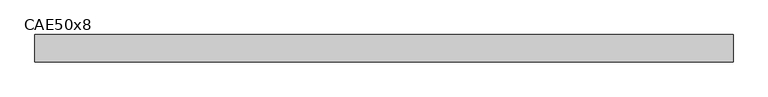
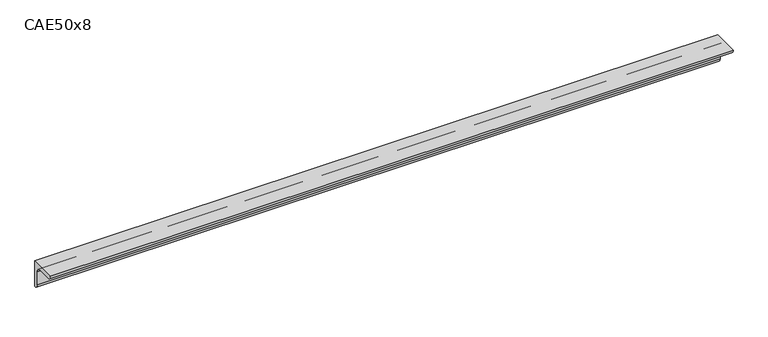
"""IFC4 building model written with IfcOpenShell, lengths in millimetres: beam geometry, L-Cornières : CAE50x8."""

from ifc_helpers import new_model, si_unit, point, frame, frame_2d, origin, place, context, project, spatial, polyline, circle_curve, trimmed, segment, composite_curve, outline, extrude, source, transform, mapped, element, save


def cae50x8_bf8927d7(model_context):
    return source(origin(), model_context, "Body", "SweptSolid", [
        extrude(outline(composite_curve([segment(polyline([(15.2, 15.2), (15.2, -34.8)]), True, "CONTINUOUS"), segment(trimmed(circle_curve(frame_2d((15.2, -26.8)), 8.0), [point((15.2, -34.8))], [point((7.2, -26.8))], False, "CARTESIAN"), True, "CONTINUOUS"), segment(polyline([(7.2, -26.8), (7.2, -0.8)]), True, "CONTINUOUS"), segment(trimmed(circle_curve(frame_2d((-0.8, -0.8)), 8.0), [point((7.2, -0.8))], [point((-0.8, 7.2))], True, "CARTESIAN"), True, "CONTINUOUS"), segment(polyline([(-0.8, 7.2), (-26.8, 7.2)]), True, "CONTINUOUS"), segment(trimmed(circle_curve(frame_2d((-26.8, 15.2)), 8.0), [point((-26.8, 7.2))], [point((-34.8, 15.2))], False, "CARTESIAN"), True, "CONTINUOUS"), segment(polyline([(-34.8, 15.2), (15.2, 15.2)]), True, "CONTINUOUS")], self_intersect=False)), frame((-637.0, 0.0, 0.0), z_axis=(1.0, 0.0, 0.0), x_axis=(0.0, 1.0, 0.0)), (0.0, 0.0, 1.0), 1270.0),
    ])


if __name__ == "__main__":
    model = new_model("IFC4")
    model_context = context("Model", 3, world=origin())
    ifc_project = project(units=[si_unit("LENGTHUNIT", "METRE", prefix="MILLI")], contexts=[model_context])
    site = spatial("IfcSite", under=ifc_project)
    building = spatial("IfcBuilding", under=site)
    placement = place(None, origin())
    cae50x8_shape = cae50x8_bf8927d7(model_context)
    element("IfcBeam", 1, ObjectType="L-Cornières : CAE50x8", at=placement, inside=building, context=model_context, shape_type="MappedRepresentation", body=[
        mapped(cae50x8_shape, transform((0.0, 0.0, 0.0), x_axis=(1.0, 0.0, 0.0), y_axis=(0.0, 1.0, 0.0), z_axis=(0.0, 0.0, 1.0))),
    ])
    save(model, "model.ifc")
